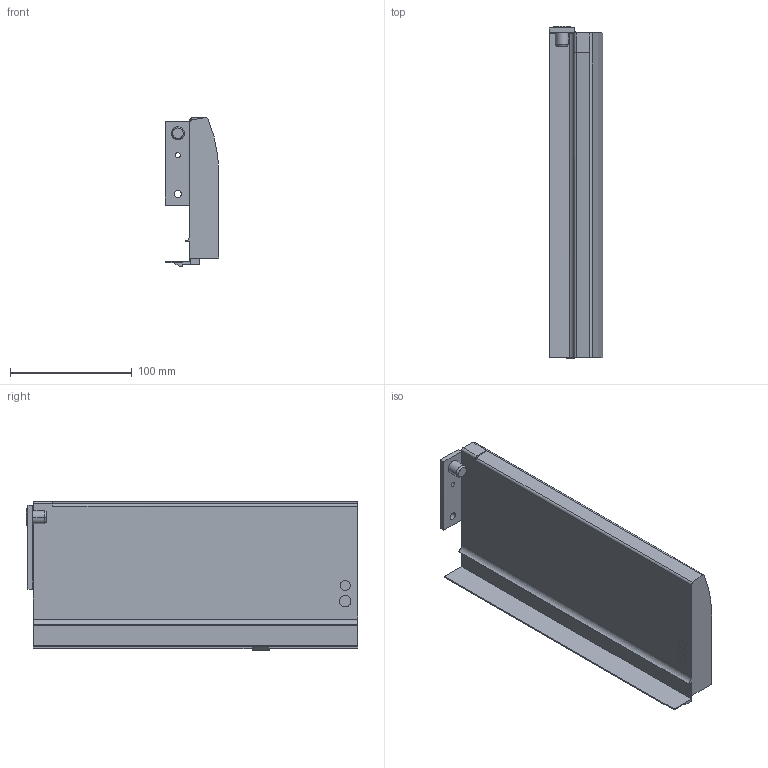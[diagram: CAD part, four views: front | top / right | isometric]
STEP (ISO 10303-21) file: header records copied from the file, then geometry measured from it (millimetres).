
FILE_DESCRIPTION (( 'STEP AP214' ), '1' );
FILE_NAME ('_IMOS_NOVA-Pro_Dekor-H122_DL_NL270_RE.step', '2010-07-14T11:01:49', ( 'grass' ), ( '' ), 'SwSTEP 2.0', 'SolidWorks 2010', '' );
FILE_SCHEMA (( 'AUTOMOTIVE_DESIGN' ));
Length unit declared in the file: millimetre
Products named in the file (1): _IMOS_NOVA-Pro_Dekor-H122_DL_NL270_RE
Bounding box: 44.3 x 272.7 x 122.49 mm (x, y, z)
Volume: 505536.9 mm3; surface area: 114233.5 mm2
Topology: 1 solids, 1 shells, 84 faces, 227 edges, 150 vertices
Faces by surface type: plane 52, cylinder 27, cone 4, bspline 1
Entity records: 2685 total; most frequent: CARTESIAN_POINT 475, DIRECTION 454, ORIENTED_EDGE 454, EDGE_CURVE 227, VECTOR 164, LINE 164, VERTEX_POINT 150, AXIS2_PLACEMENT_3D 145
